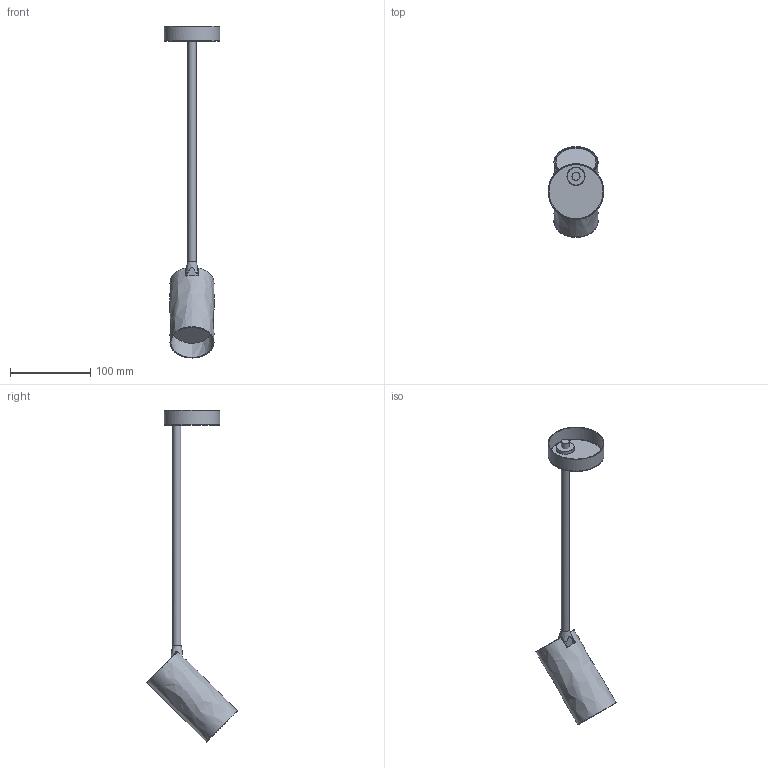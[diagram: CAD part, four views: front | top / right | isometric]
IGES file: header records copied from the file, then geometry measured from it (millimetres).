
Start section: SolidWorks IGES file using NURBS representation for surfaces
Global section: file name: Z:\Modele 3D_WWW\_KOLEKCJE_WWW\MONO\MONO-BELKA-LONG\7732\MONO-LONG-I-M-BRASS-7732.IGS; native system: SolidWorks 2021; preprocessor: SolidWorks 2021; author: gabriela.tworek; date: 220121.111101; units: millimetre
Bounding box: 69.6 x 113.14 x 414.32 mm (x, y, z)
Surface area: 70830.3 mm2 (no closed solid volume)
Topology: 0 solids, 0 shells, 49 faces, 296 edges, 285 vertices
Faces by surface type: bspline 49
